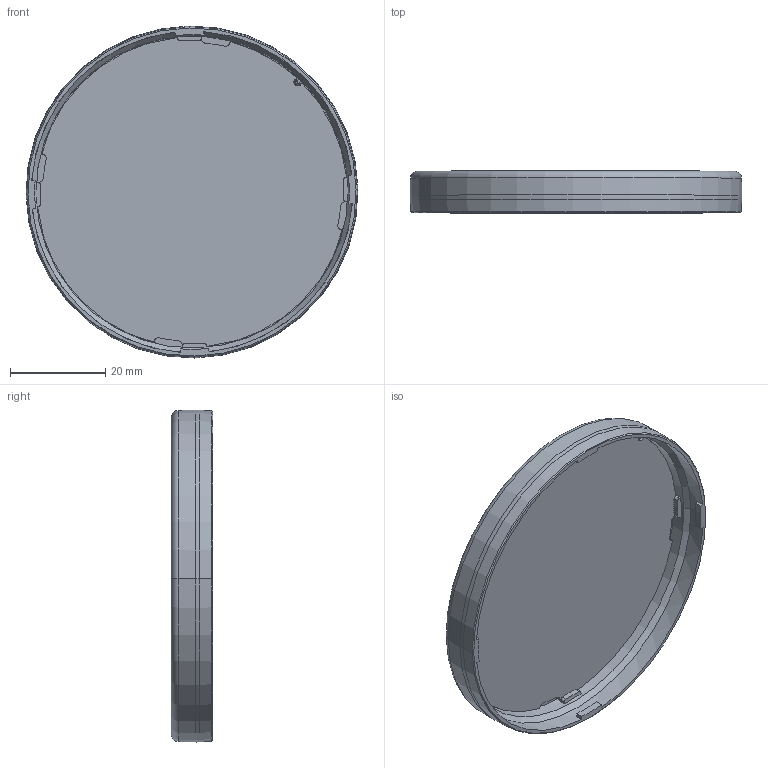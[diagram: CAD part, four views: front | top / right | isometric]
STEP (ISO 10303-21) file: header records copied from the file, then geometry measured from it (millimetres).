
FILE_DESCRIPTION(('FreeCAD Model'),'2;1');
FILE_NAME('Open CASCADE Shape Model','2024-08-30T09:42:16',( 'Lukas Balthasar Pank'),('Astera LED Technology GmbH'), 'Open CASCADE STEP processor 7.6','FreeCAD','Unknown');
FILE_SCHEMA(('AUTOMOTIVE_DESIGN { 1 0 10303 214 1 1 1 1 }'));
Length unit declared in the file: millimetre
Products named in the file (3): FP7-LLS_LunaLens_3D-STEP; MEC34370-LunaLens; MEC34606-Diffuser Lens
Assembly tree (2 placements, depth 2):
  FP7-LLS_LunaLens_3D-STEP
    MEC34370-LunaLens
    MEC34606-Diffuser Lens
Bounding box: 69.6 x 8.73 x 69.6 mm (x, y, z)
Volume: 7988.6 mm3; surface area: 11859.7 mm2
Topology: 2 solids, 2 shells, 127 faces, 340 edges, 221 vertices
Faces by surface type: cylinder 58, plane 47, cone 16, torus 4, revolution 2
Entity records: 4174 total; most frequent: CARTESIAN_POINT 886, ORIENTED_EDGE 680, DIRECTION 677, EDGE_CURVE 340, AXIS2_PLACEMENT_3D 266, VERTEX_POINT 221, LINE 143, VECTOR 143
